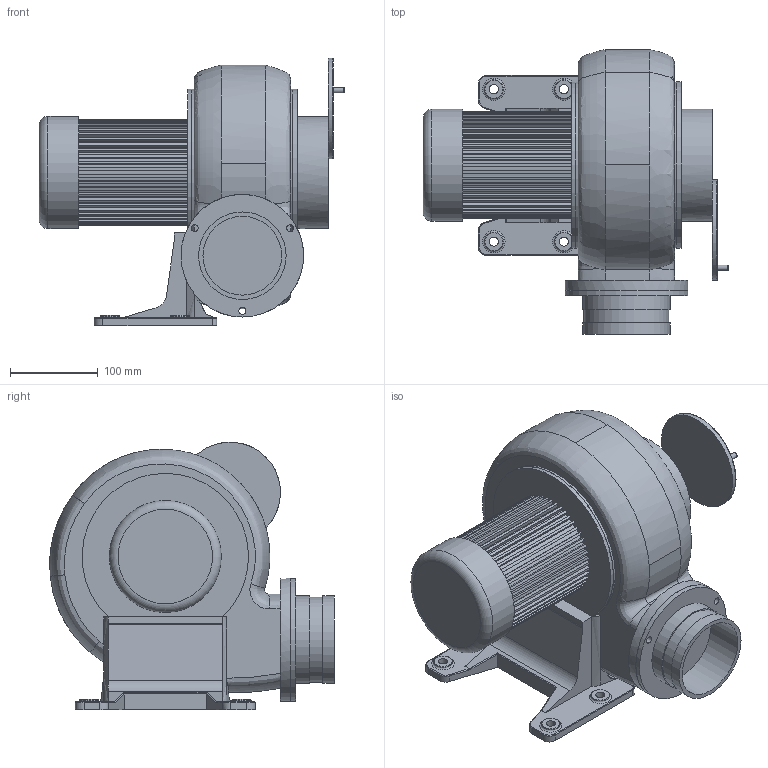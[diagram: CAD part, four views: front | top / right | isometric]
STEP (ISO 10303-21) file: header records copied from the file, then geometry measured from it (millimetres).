
FILE_DESCRIPTION(/* description */ ('Unknown'),/* implementation_level */ '2;1');
FILE_NAME(/* name */ '20200630 TS-400',/* time_stamp */ '2020-07-05T16:03:26+08:00',/* author */ ('å¤§èºè¨­è¨æéå¬å¸'),/* organization */ ('Unknown'),/* preprocessor_version */ 'ST-DEVELOPER v16.7',/* originating_system */ 'DEX',/* authorisation */ $);
FILE_SCHEMA (('AUTOMOTIVE_DESIGN {1 0 10303 214 3 1 1}'));
Length unit declared in the file: millimetre
Products named in the file (1): 20200630 TS-400
Bounding box: 349 x 325.02 x 305.5 mm (x, y, z)
Volume: 9597289.8 mm3; surface area: 490304.8 mm2
Topology: 1 solids, 1 shells, 372 faces, 1044 edges, 690 vertices
Faces by surface type: plane 212, cylinder 111, bspline 30, torus 13, cone 6
Full cylindrical faces by diameter (mm): 4.857 x4, 6 x1, 8.014 x3, 10.5 x4, 21.52 x4, 90 x1, 97 x1, 100 x2, 115 x2, 128 x2, 140 x2, 190 x2
Entity records: 18185 total; most frequent: CARTESIAN_POINT 8797, ORIENTED_EDGE 1980, DIRECTION 1840, EDGE_CURVE 990, VERTEX_POINT 679, LINE 654, VECTOR 654, AXIS2_PLACEMENT_3D 593
